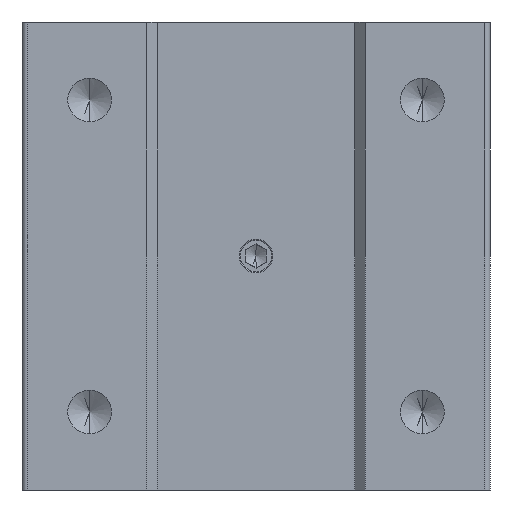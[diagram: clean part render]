
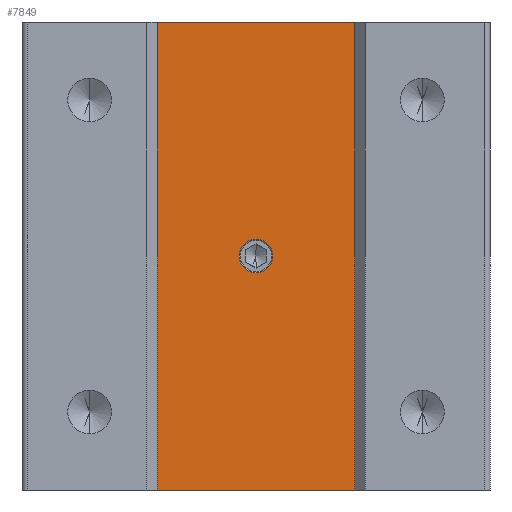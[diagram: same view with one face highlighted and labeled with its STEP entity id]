
A CAD part, front view. The second image highlights one B-rep face of the part: STEP entity #7849.
In plain terms, the highlighted planar face has unit normal (0, -1, 0).
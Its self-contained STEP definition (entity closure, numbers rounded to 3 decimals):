
#289 = CARTESIAN_POINT ( 'NONE',  ( -9.5, -19., 0. ) ) ;
#1064 = VECTOR ( 'NONE', #10770, 1000. ) ;
#1122 = DIRECTION ( 'NONE',  ( 0., 0., -1. ) ) ;
#1919 = CARTESIAN_POINT ( 'NONE',  ( 0., -19., 20.9 ) ) ;
#2167 = EDGE_CURVE ( 'NONE', #14636, #8164, #3972, .T. ) ;
#2712 = DIRECTION ( 'NONE',  ( 1., 0., 0. ) ) ;
#3182 = CARTESIAN_POINT ( 'NONE',  ( 9.5, -19., 0. ) ) ;
#3443 = AXIS2_PLACEMENT_3D ( 'NONE', #14838, #16587, #6065 ) ;
#3972 = CIRCLE ( 'NONE', #12425, 1.6 ) ;
#4235 = CARTESIAN_POINT ( 'NONE',  ( -9.5, -19., 45. ) ) ;
#4281 = CARTESIAN_POINT ( 'NONE',  ( 9.5, -19., 45. ) ) ;
#4412 = EDGE_CURVE ( 'NONE', #13526, #13442, #14579, .T. ) ;
#5271 = CARTESIAN_POINT ( 'NONE',  ( 0., -19., 22.5 ) ) ;
#5953 = VERTEX_POINT ( 'NONE', #15635 ) ;
#6049 = EDGE_CURVE ( 'NONE', #8164, #14636, #22758, .T. ) ;
#6065 = DIRECTION ( 'NONE',  ( -1., 0., 0. ) ) ;
#6307 = FACE_OUTER_BOUND ( 'NONE', #7642, .T. ) ;
#6322 = ORIENTED_EDGE ( 'NONE', *, *, #15918, .F. ) ;
#6640 = VECTOR ( 'NONE', #1122, 1000. ) ;
#6726 = AXIS2_PLACEMENT_3D ( 'NONE', #5271, #17564, #7034 ) ;
#7034 = DIRECTION ( 'NONE',  ( 0., 0., -1. ) ) ;
#7539 = CARTESIAN_POINT ( 'NONE',  ( 0., -19., 22.5 ) ) ;
#7642 = EDGE_LOOP ( 'NONE', ( #14507, #10432, #6322, #11918 ) ) ;
#7849 = ADVANCED_FACE ( 'NONE', ( #20358, #6307 ), #21873, .F. ) ;
#8164 = VERTEX_POINT ( 'NONE', #13746 ) ;
#8761 = VERTEX_POINT ( 'NONE', #19807 ) ;
#9315 = DIRECTION ( 'NONE',  ( 0., 0., -1. ) ) ;
#10432 = ORIENTED_EDGE ( 'NONE', *, *, #11367, .F. ) ;
#10770 = DIRECTION ( 'NONE',  ( 1., 0., 0. ) ) ;
#11367 = EDGE_CURVE ( 'NONE', #8761, #13442, #19378, .T. ) ;
#11918 = ORIENTED_EDGE ( 'NONE', *, *, #19920, .T. ) ;
#12425 = AXIS2_PLACEMENT_3D ( 'NONE', #7539, #19843, #9315 ) ;
#12562 = LINE ( 'NONE', #4235, #16645 ) ;
#13442 = VERTEX_POINT ( 'NONE', #3182 ) ;
#13526 = VERTEX_POINT ( 'NONE', #19365 ) ;
#13619 = ORIENTED_EDGE ( 'NONE', *, *, #6049, .F. ) ;
#13746 = CARTESIAN_POINT ( 'NONE',  ( 0., -19., 24.1 ) ) ;
#14385 = ORIENTED_EDGE ( 'NONE', *, *, #2167, .F. ) ;
#14507 = ORIENTED_EDGE ( 'NONE', *, *, #4412, .T. ) ;
#14579 = LINE ( 'NONE', #289, #1064 ) ;
#14636 = VERTEX_POINT ( 'NONE', #1919 ) ;
#14801 = DIRECTION ( 'NONE',  ( 0., 0., -1. ) ) ;
#14838 = CARTESIAN_POINT ( 'NONE',  ( -9.5, -19., 45. ) ) ;
#15635 = CARTESIAN_POINT ( 'NONE',  ( -9.5, -19., 45. ) ) ;
#15918 = EDGE_CURVE ( 'NONE', #5953, #8761, #12562, .T. ) ;
#15990 = LINE ( 'NONE', #20465, #6640 ) ;
#16587 = DIRECTION ( 'NONE',  ( 0., 1., 0. ) ) ;
#16645 = VECTOR ( 'NONE', #2712, 1000. ) ;
#17564 = DIRECTION ( 'NONE',  ( 0., -1., 0. ) ) ;
#18824 = VECTOR ( 'NONE', #14801, 1000. ) ;
#19365 = CARTESIAN_POINT ( 'NONE',  ( -9.5, -19., 0. ) ) ;
#19378 = LINE ( 'NONE', #4281, #18824 ) ;
#19807 = CARTESIAN_POINT ( 'NONE',  ( 9.5, -19., 45. ) ) ;
#19843 = DIRECTION ( 'NONE',  ( 0., -1., 0. ) ) ;
#19920 = EDGE_CURVE ( 'NONE', #5953, #13526, #15990, .T. ) ;
#20358 = FACE_BOUND ( 'NONE', #22098, .T. ) ;
#20465 = CARTESIAN_POINT ( 'NONE',  ( -9.5, -19., 45. ) ) ;
#21873 = PLANE ( 'NONE',  #3443 ) ;
#22098 = EDGE_LOOP ( 'NONE', ( #14385, #13619 ) ) ;
#22758 = CIRCLE ( 'NONE', #6726, 1.6 ) ;
